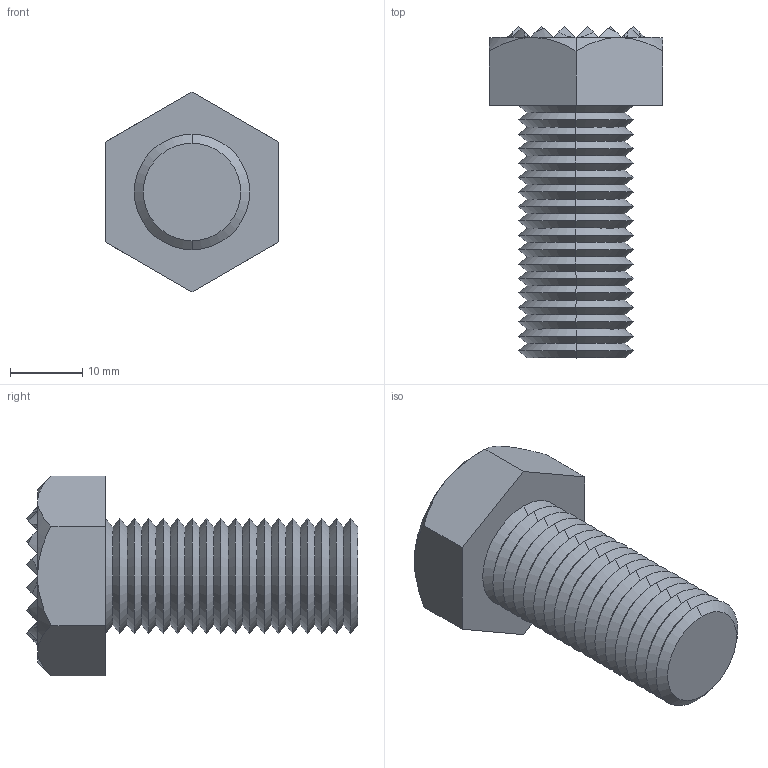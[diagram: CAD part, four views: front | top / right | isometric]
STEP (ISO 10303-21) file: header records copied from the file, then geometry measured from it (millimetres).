
FILE_DESCRIPTION (( 'STEP AP203' ), '1' );
FILE_NAME ('35400.W0011.step', '2017-07-03T07:22:06', ( 'User' ), ( '' ), 'SwSTEP 2.0', 'SolidWorks 2009', '' );
FILE_SCHEMA (( 'CONFIG_CONTROL_DESIGN' ));
Length unit declared in the file: millimetre
Products named in the file (1): 35400.W0011
Bounding box: 24 x 46 x 27.71 mm (x, y, z)
Volume: 10812.2 mm3; surface area: 4411.7 mm2
Topology: 1 solids, 1 shells, 234 faces, 418 edges, 188 vertices
Faces by surface type: plane 137, cone 97
Entity records: 5421 total; most frequent: CARTESIAN_POINT 1068, DIRECTION 927, ORIENTED_EDGE 836, EDGE_CURVE 418, AXIS2_PLACEMENT_3D 334, LINE 259, VECTOR 259, EDGE_LOOP 236
